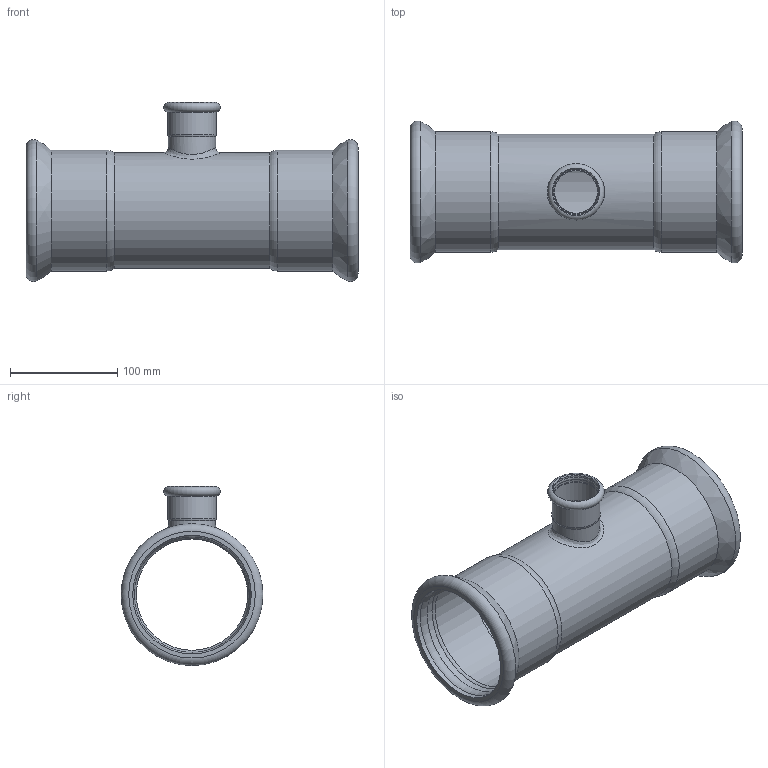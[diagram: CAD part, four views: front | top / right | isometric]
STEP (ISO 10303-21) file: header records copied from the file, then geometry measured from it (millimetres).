
FILE_DESCRIPTION(/* description */ (''),/* implementation_level */ '2;1');
FILE_NAME(/* name */ 'T:\A_ARTICOLI\ARTICOLI PRODOTTI_WEB\Articoli_STEELPRES_WEB\Temporary Step\392108042_Steelpres.ipt.step',/* time_stamp */ '2016-01-20T11:57:22+01:00',/* author */ ('Ghirlinghelli Diego'),/* organization */ (''),/* preprocessor_version */ 'ST-DEVELOPER v15.2',/* originating_system */ 'Autodesk Inventor 2014',/* authorisation */ 'R.M. S.p.A. si riserva a termini di legge la proprietà del presente disegno con divieto di riprodurlo o comunicarlo a terzi senza sua autorizzazione scritta');
FILE_SCHEMA (('AUTOMOTIVE_DESIGN { 1 0 10303 214 3 1 1 }'));
Length unit declared in the file: millimetre
Products named in the file (1): 392108042_Steelpres
Bounding box: 310 x 132.47 x 167.23 mm (x, y, z)
Volume: 334800.6 mm3; surface area: 234200.5 mm2
Topology: 1 solids, 1 shells, 40 faces, 93 edges, 56 vertices
Faces by surface type: cylinder 17, torus 15, bspline 4, plane 3, cone 1
Full cylindrical faces by diameter (mm): 40 x1, 41 x1, 42.4 x1, 42.7 x2, 44 x1, 45.4 x1, 104 x1, 108 x1, 108.8 x2, 110.7 x4, 112.8 x2
Entity records: 1418 total; most frequent: CARTESIAN_POINT 677, DIRECTION 160, ORIENTED_EDGE 98, AXIS2_PLACEMENT_3D 80, EDGE_LOOP 78, EDGE_CURVE 49, VERTEX_POINT 45, CIRCLE 43
